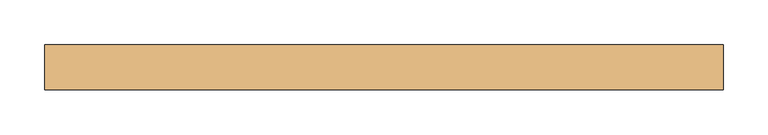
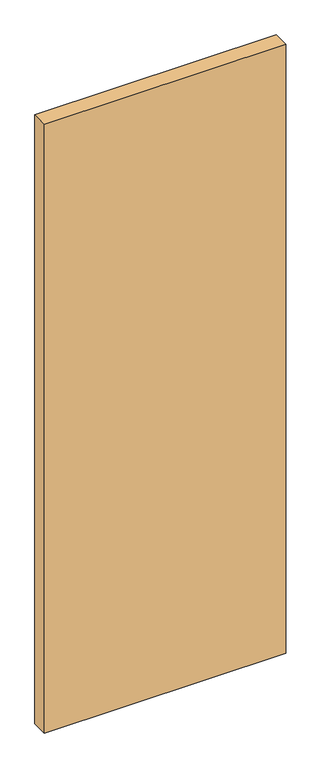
"""IFC4 building model written with IfcOpenShell, lengths in millimetres: door geometry, Planitar - Swap_Flush Panel : Planitar - Swap_Flush Panel."""

from ifc_helpers import new_model, si_unit, origin, origin_with_axes, place, context, project, spatial, polyline, outline, extrude, source, transform, mapped, element, save


def door_a150a632(model_context):
    return source(origin(), model_context, "Body", "SweptSolid", [
        extrude(outline(polyline([(381.0, 25.4), (381.0, -25.4), (-381.0, -25.4), (-381.0, 25.4), (381.0, 25.4)])), origin_with_axes(), (0.0, 0.0, 1.0), 2032.0),
    ])


if __name__ == "__main__":
    model = new_model("IFC4")
    model_context = context("Model", 3, world=origin())
    ifc_project = project(units=[si_unit("LENGTHUNIT", "METRE", prefix="MILLI")], contexts=[model_context])
    site = spatial("IfcSite", under=ifc_project)
    building = spatial("IfcBuilding", under=site)
    placement = place(None, origin())
    door_shape = door_a150a632(model_context)
    element("IfcDoor", 1, ObjectType="Planitar - Swap_Flush Panel : Planitar - Swap_Flush Panel", at=placement, inside=building, context=model_context, shape_type="MappedRepresentation", body=[
        mapped(door_shape, transform((0.0, 0.0, 0.0), x_axis=(1.0, 0.0, 0.0), y_axis=(0.0, 1.0, 0.0), z_axis=(0.0, 0.0, 1.0))),
    ])
    save(model, "model.ifc")
